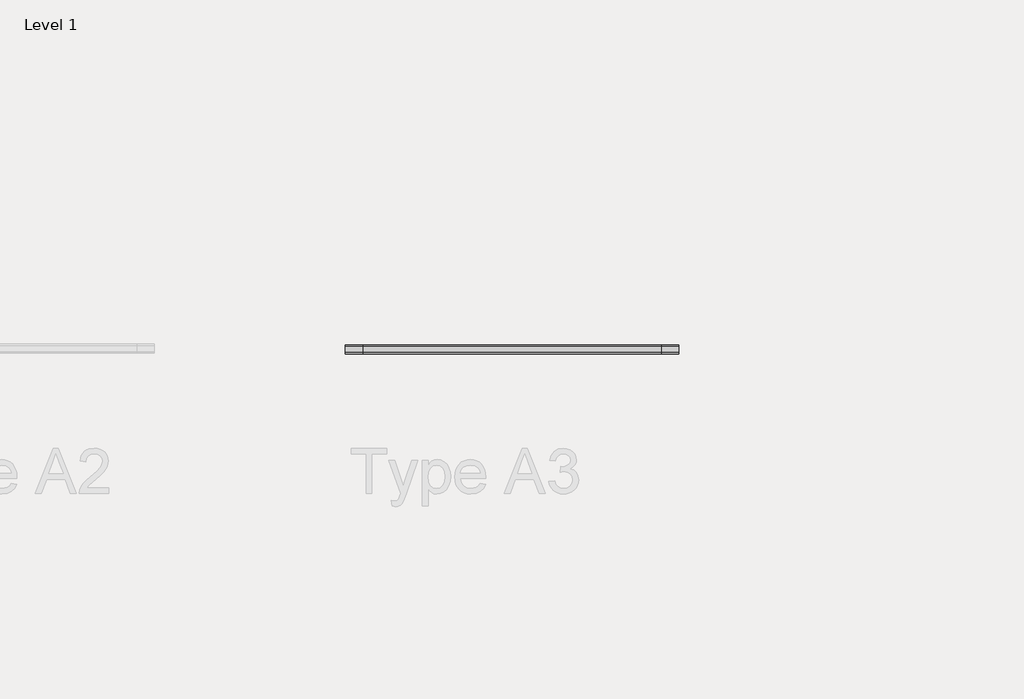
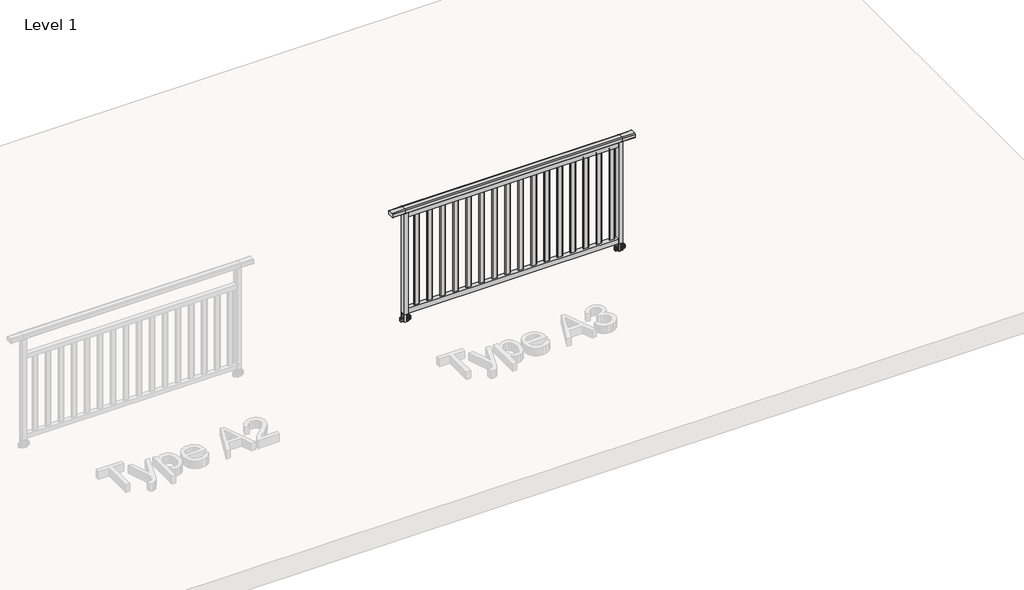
# One storey, part 2 of 9: 1 railing.
"""IFC4 building model written with IfcOpenShell, lengths in millimetres."""

from ifc_helpers import new_model, si_unit, point, frame, frame_2d, origin, origin_with_axes, place, context, project, spatial, polyline, circle_curve, trimmed, segment, composite_curve, outline, extrude, element, save
from ifc_brep_helpers import plane_surface, cylinder_surface, advanced_brep

model = new_model("IFC4")

# Units and contexts
model_context = context("Model", 3, world=origin())
ifc_project = project(units=[si_unit("LENGTHUNIT", "METRE", prefix="MILLI")], contexts=[model_context])

# Site, building, storey
site = spatial("IfcSite", under=ifc_project)
building = spatial("IfcBuilding", under=site)
storey = spatial("IfcBuildingStorey", under=building, Name="Level 1", Elevation=0.0)

# Railing
placement = place(None, origin())
element("IfcRailing", 1, ObjectType="OF 60 TYPE A3", at=placement, inside=storey, context=model_context, shape_type="SolidModel", body=[
    advanced_brep(
    [(3816.4562095, -924.6139415, 1100.0), (3816.4562095, -916.6139415, 1092.0), (3816.4562095, -916.6139415, 1064.0), (3816.4562095, -920.6139415, 1060.0), (3816.4562095, -972.6139415, 1060.0), (3816.4562095, -976.6139415, 1064.0), (3816.4562095, -976.6139415, 1092.0), (3816.4562095, -968.6139415, 1100.0), (3933.4542161, -924.6139415, 1100.0), (3933.4542161, -916.6139415, 1092.0), (3933.4542161, -916.6139415, 1064.0), (3933.4542161, -920.6139415, 1060.0), (3933.4542161, -972.6139415, 1060.0), (3933.4542161, -976.6139415, 1064.0), (3933.4542161, -976.6139415, 1092.0), (3933.4542161, -968.6139415, 1100.0), (5933.4542161, -924.6139415, 1100.0), (5933.4542161, -916.6139415, 1092.0), (5933.4542161, -916.6139415, 1064.0), (5933.4542161, -920.6139415, 1060.0), (5933.4542161, -972.6139415, 1060.0), (5933.4542161, -976.6139415, 1064.0), (5933.4542161, -976.6139415, 1092.0), (5933.4542161, -968.6139415, 1100.0), (6050.4522228, -924.6139415, 1100.0), (6050.4522228, -968.6139415, 1100.0), (6050.4522228, -976.6139415, 1092.0), (6050.4522228, -976.6139415, 1064.0), (6050.4522228, -972.6139415, 1060.0), (6050.4522228, -920.6139415, 1060.0), (6050.4522228, -916.6139415, 1064.0), (6050.4522228, -916.6139415, 1092.0)],
    [
        (0, 1, circle_curve(frame((3816.4562095, -924.6139415, 1092.0), z_axis=(-1.0, 0.0, 0.0), x_axis=(0.0, 1.0, 0.0)), 8.0)),
        (1, 2),
        (2, 3, circle_curve(frame((3816.4562095, -920.6139415, 1064.0), z_axis=(-1.0, 0.0, 0.0), x_axis=(0.0, 0.0, -1.0)), 4.0)),
        (3, 4),
        (4, 5, circle_curve(frame((3816.4562095, -972.6139415, 1064.0), z_axis=(-1.0, 0.0, 0.0), x_axis=(0.0, -1.0, 0.0)), 4.0)),
        (5, 6),
        (6, 7, circle_curve(frame((3816.4562095, -968.6139415, 1092.0), z_axis=(-1.0, 0.0, 0.0), x_axis=(0.0, 0.0, 1.0)), 8.0)),
        (7, 0),
        (0, 8),
        (8, 9, circle_curve(frame((3933.4542161, -924.6139415, 1092.0), z_axis=(-1.0, 0.0, 0.0), x_axis=(0.0, 1.0, 0.0)), 8.0)),
        (9, 1),
        (9, 10),
        (10, 2),
        (10, 11, circle_curve(frame((3933.4542161, -920.6139415, 1064.0), z_axis=(-1.0, 0.0, 0.0), x_axis=(0.0, 0.0, -1.0)), 4.0)),
        (11, 3),
        (11, 12),
        (12, 4),
        (12, 13, circle_curve(frame((3933.4542161, -972.6139415, 1064.0), z_axis=(-1.0, 0.0, 0.0), x_axis=(0.0, -1.0, 0.0)), 4.0)),
        (13, 5),
        (13, 14),
        (14, 6),
        (14, 15, circle_curve(frame((3933.4542161, -968.6139415, 1092.0), z_axis=(-1.0, 0.0, 0.0), x_axis=(0.0, 0.0, 1.0)), 8.0)),
        (15, 7),
        (15, 8),
        (8, 16),
        (16, 17, circle_curve(frame((5933.4542161, -924.6139415, 1092.0), z_axis=(-1.0, 0.0, 0.0), x_axis=(0.0, 1.0, 0.0)), 8.0)),
        (17, 9),
        (17, 18),
        (18, 10),
        (18, 19, circle_curve(frame((5933.4542161, -920.6139415, 1064.0), z_axis=(-1.0, 0.0, 0.0), x_axis=(0.0, 0.0, -1.0)), 4.0)),
        (19, 11),
        (19, 20),
        (20, 12),
        (20, 21, circle_curve(frame((5933.4542161, -972.6139415, 1064.0), z_axis=(-1.0, 0.0, 0.0), x_axis=(0.0, -1.0, 0.0)), 4.0)),
        (21, 13),
        (21, 22),
        (22, 14),
        (22, 23, circle_curve(frame((5933.4542161, -968.6139415, 1092.0), z_axis=(-1.0, 0.0, 0.0), x_axis=(0.0, 0.0, 1.0)), 8.0)),
        (23, 15),
        (23, 16),
        (24, 25),
        (25, 26, circle_curve(frame((6050.4522228, -968.6139415, 1092.0), z_axis=(1.0, 0.0, 0.0), x_axis=(0.0, 0.0, 1.0)), 8.0)),
        (26, 27),
        (27, 28, circle_curve(frame((6050.4522228, -972.6139415, 1064.0), z_axis=(1.0, 0.0, 0.0), x_axis=(0.0, -1.0, 0.0)), 4.0)),
        (28, 29),
        (29, 30, circle_curve(frame((6050.4522228, -920.6139415, 1064.0), z_axis=(1.0, 0.0, 0.0), x_axis=(0.0, 0.0, -1.0)), 4.0)),
        (30, 31),
        (31, 24, circle_curve(frame((6050.4522228, -924.6139415, 1092.0), z_axis=(1.0, 0.0, 0.0), x_axis=(0.0, 1.0, 0.0)), 8.0)),
        (16, 24),
        (31, 17),
        (30, 18),
        (29, 19),
        (28, 20),
        (27, 21),
        (26, 22),
        (25, 23),
    ],
    [
        plane_surface(frame((3816.4562095, -916.6139415, 1100.0), z_axis=(-1.0, 0.0, 0.0), x_axis=(0.0, 1.0, 0.0))),
        cylinder_surface(frame((3816.4562095, -924.6139415, 1092.0), z_axis=(-1.0, 0.0, 0.0), x_axis=(0.0, 1.0, 0.0)), 8.0),
        plane_surface(frame((3816.4562095, -916.6139415, 1092.0), z_axis=(0.0, 1.0, 0.0), x_axis=(1.0, 0.0, 0.0))),
        cylinder_surface(frame((3816.4562095, -920.6139415, 1064.0), z_axis=(-1.0, 0.0, 0.0), x_axis=(0.0, 0.0, -1.0)), 4.0),
        plane_surface(frame((3816.4562095, -920.6139415, 1060.0), z_axis=(0.0, 0.0, -1.0), x_axis=(1.0, 0.0, 0.0))),
        cylinder_surface(frame((3816.4562095, -972.6139415, 1064.0), z_axis=(-1.0, 0.0, 0.0), x_axis=(0.0, -1.0, 0.0)), 4.0),
        plane_surface(frame((3816.4562095, -976.6139415, 1064.0), z_axis=(0.0, -1.0, 0.0), x_axis=(1.0, 0.0, 0.0))),
        cylinder_surface(frame((3816.4562095, -968.6139415, 1092.0), z_axis=(-1.0, 0.0, 0.0), x_axis=(0.0, 0.0, 1.0)), 8.0),
        plane_surface(frame((3816.4562095, -968.6139415, 1100.0), z_axis=(0.0, 0.0, 1.0), x_axis=(1.0, 0.0, 0.0))),
        cylinder_surface(frame((3933.4542161, -924.6139415, 1092.0), z_axis=(-1.0, 0.0, 0.0), x_axis=(0.0, 1.0, 0.0)), 8.0),
        plane_surface(frame((3933.4542161, -916.6139415, 1092.0), z_axis=(0.0, 1.0, 0.0), x_axis=(1.0, 0.0, 0.0))),
        cylinder_surface(frame((3933.4542161, -920.6139415, 1064.0), z_axis=(-1.0, 0.0, 0.0), x_axis=(0.0, 0.0, -1.0)), 4.0),
        plane_surface(frame((3933.4542161, -920.6139415, 1060.0), z_axis=(0.0, 0.0, -1.0), x_axis=(1.0, 0.0, 0.0))),
        cylinder_surface(frame((3933.4542161, -972.6139415, 1064.0), z_axis=(-1.0, 0.0, 0.0), x_axis=(0.0, -1.0, 0.0)), 4.0),
        plane_surface(frame((3933.4542161, -976.6139415, 1064.0), z_axis=(0.0, -1.0, 0.0), x_axis=(1.0, 0.0, 0.0))),
        cylinder_surface(frame((3933.4542161, -968.6139415, 1092.0), z_axis=(-1.0, 0.0, 0.0), x_axis=(0.0, 0.0, 1.0)), 8.0),
        plane_surface(frame((3933.4542161, -968.6139415, 1100.0), z_axis=(0.0, 0.0, 1.0), x_axis=(1.0, 0.0, 0.0))),
        plane_surface(frame((6050.4522228, -916.6139415, 1100.0), z_axis=(1.0, 0.0, 0.0), x_axis=(0.0, 1.0, 0.0))),
        cylinder_surface(frame((5933.4542161, -924.6139415, 1092.0), z_axis=(-1.0, 0.0, 0.0), x_axis=(0.0, 1.0, 0.0)), 8.0),
        plane_surface(frame((5933.4542161, -916.6139415, 1092.0), z_axis=(0.0, 1.0, 0.0), x_axis=(1.0, 0.0, 0.0))),
        cylinder_surface(frame((5933.4542161, -920.6139415, 1064.0), z_axis=(-1.0, 0.0, 0.0), x_axis=(0.0, 0.0, -1.0)), 4.0),
        plane_surface(frame((5933.4542161, -920.6139415, 1060.0), z_axis=(0.0, 0.0, -1.0), x_axis=(1.0, 0.0, 0.0))),
        cylinder_surface(frame((5933.4542161, -972.6139415, 1064.0), z_axis=(-1.0, 0.0, 0.0), x_axis=(0.0, -1.0, 0.0)), 4.0),
        plane_surface(frame((5933.4542161, -976.6139415, 1064.0), z_axis=(0.0, -1.0, 0.0), x_axis=(1.0, 0.0, 0.0))),
        cylinder_surface(frame((5933.4542161, -968.6139415, 1092.0), z_axis=(-1.0, 0.0, 0.0), x_axis=(0.0, 0.0, 1.0)), 8.0),
        plane_surface(frame((5933.4542161, -968.6139415, 1100.0), z_axis=(0.0, 0.0, 1.0), x_axis=(1.0, 0.0, 0.0))),
    ],
    [
        (0, [[1, 2, 3, 4, 5, 6, 7, 8]]),
        (1, [[-1, 9, 10, 11]]),
        (2, [[-2, -11, 12, 13]]),
        (3, [[-3, -13, 14, 15]]),
        (4, [[-4, -15, 16, 17]]),
        (5, [[-5, -17, 18, 19]]),
        (6, [[-6, -19, 20, 21]]),
        (7, [[-7, -21, 22, 23]]),
        (8, [[-8, -23, 24, -9]]),
        (9, [[-10, 25, 26, 27]]),
        (10, [[-12, -27, 28, 29]]),
        (11, [[-14, -29, 30, 31]]),
        (12, [[-16, -31, 32, 33]]),
        (13, [[-18, -33, 34, 35]]),
        (14, [[-20, -35, 36, 37]]),
        (15, [[-22, -37, 38, 39]]),
        (16, [[-24, -39, 40, -25]]),
        (17, [[41, 42, 43, 44, 45, 46, 47, 48]]),
        (18, [[-26, 49, -48, 50]]),
        (19, [[-28, -50, -47, 51]]),
        (20, [[-30, -51, -46, 52]]),
        (21, [[-32, -52, -45, 53]]),
        (22, [[-34, -53, -44, 54]]),
        (23, [[-36, -54, -43, 55]]),
        (24, [[-38, -55, -42, 56]]),
        (25, [[-40, -56, -41, -49]]),
    ],
),
    extrude(outline(polyline([(3933.4542161, -969.1139415), (3933.4542161, -924.1139415), (5933.4542161, -924.1139415), (5933.4542161, -969.1139415), (3933.4542161, -969.1139415)])), frame((0.0, 0.0, 1015.0), z_axis=(0.0, 0.0, 1.0), x_axis=(1.0, 0.0, 0.0)), (0.0, 0.0, 1.0), 45.0),
    extrude(outline(polyline([(3933.4542161, -969.1139415), (3933.4542161, -924.1139415), (5933.4542161, -924.1139415), (5933.4542161, -969.1139415), (3933.4542161, -969.1139415)])), frame((0.0, 0.0, 75.0), z_axis=(0.0, 0.0, 1.0), x_axis=(1.0, 0.0, 0.0)), (0.0, 0.0, 1.0), 45.0),
    extrude(outline(composite_curve([segment(trimmed(circle_curve(frame_2d((5833.4542161, -946.6139415)), 5.0), [point((5828.4542161, -946.6139415))], [point((5833.4542161, -941.6139415))], False, "CARTESIAN"), True, "CONTINUOUS"), segment(polyline([(5833.4542161, -941.6139415), (5873.4542161, -941.6139415)]), True, "CONTINUOUS"), segment(trimmed(circle_curve(frame_2d((5873.4542161, -946.6139415)), 5.0), [point((5873.4542161, -941.6139415))], [point((5878.4542161, -946.6139415))], False, "CARTESIAN"), True, "CONTINUOUS"), segment(trimmed(circle_curve(frame_2d((5873.4542161, -946.6139415)), 5.0), [point((5878.4542161, -946.6139415))], [point((5873.4542161, -951.6139415))], False, "CARTESIAN"), True, "CONTINUOUS"), segment(polyline([(5873.4542161, -951.6139415), (5833.4542161, -951.6139415)]), True, "CONTINUOUS"), segment(trimmed(circle_curve(frame_2d((5833.4542161, -946.6139415)), 5.0), [point((5833.4542161, -951.6139415))], [point((5828.4542161, -946.6139415))], False, "CARTESIAN"), True, "CONTINUOUS")], self_intersect=False)), frame((0.0, 0.0, 120.0), z_axis=(0.0, 0.0, 1.0), x_axis=(1.0, 0.0, 0.0)), (0.0, 0.0, 1.0), 895.0),
    extrude(outline(composite_curve([segment(trimmed(circle_curve(frame_2d((5713.4542161, -946.6139415)), 5.0), [point((5708.4542161, -946.6139415))], [point((5713.4542161, -941.6139415))], False, "CARTESIAN"), True, "CONTINUOUS"), segment(polyline([(5713.4542161, -941.6139415), (5753.4542161, -941.6139415)]), True, "CONTINUOUS"), segment(trimmed(circle_curve(frame_2d((5753.4542161, -946.6139415)), 5.0), [point((5753.4542161, -941.6139415))], [point((5758.4542161, -946.6139415))], False, "CARTESIAN"), True, "CONTINUOUS"), segment(trimmed(circle_curve(frame_2d((5753.4542161, -946.6139415)), 5.0), [point((5758.4542161, -946.6139415))], [point((5753.4542161, -951.6139415))], False, "CARTESIAN"), True, "CONTINUOUS"), segment(polyline([(5753.4542161, -951.6139415), (5713.4542161, -951.6139415)]), True, "CONTINUOUS"), segment(trimmed(circle_curve(frame_2d((5713.4542161, -946.6139415)), 5.0), [point((5713.4542161, -951.6139415))], [point((5708.4542161, -946.6139415))], False, "CARTESIAN"), True, "CONTINUOUS")], self_intersect=False)), frame((0.0, 0.0, 120.0), z_axis=(0.0, 0.0, 1.0), x_axis=(1.0, 0.0, 0.0)), (0.0, 0.0, 1.0), 895.0),
    extrude(outline(composite_curve([segment(trimmed(circle_curve(frame_2d((5593.4542161, -946.6139415)), 5.0), [point((5588.4542161, -946.6139415))], [point((5593.4542161, -941.6139415))], False, "CARTESIAN"), True, "CONTINUOUS"), segment(polyline([(5593.4542161, -941.6139415), (5633.4542161, -941.6139415)]), True, "CONTINUOUS"), segment(trimmed(circle_curve(frame_2d((5633.4542161, -946.6139415)), 5.0), [point((5633.4542161, -941.6139415))], [point((5638.4542161, -946.6139415))], False, "CARTESIAN"), True, "CONTINUOUS"), segment(trimmed(circle_curve(frame_2d((5633.4542161, -946.6139415)), 5.0), [point((5638.4542161, -946.6139415))], [point((5633.4542161, -951.6139415))], False, "CARTESIAN"), True, "CONTINUOUS"), segment(polyline([(5633.4542161, -951.6139415), (5593.4542161, -951.6139415)]), True, "CONTINUOUS"), segment(trimmed(circle_curve(frame_2d((5593.4542161, -946.6139415)), 5.0), [point((5593.4542161, -951.6139415))], [point((5588.4542161, -946.6139415))], False, "CARTESIAN"), True, "CONTINUOUS")], self_intersect=False)), frame((0.0, 0.0, 120.0), z_axis=(0.0, 0.0, 1.0), x_axis=(1.0, 0.0, 0.0)), (0.0, 0.0, 1.0), 895.0),
    extrude(outline(composite_curve([segment(trimmed(circle_curve(frame_2d((5473.4542161, -946.6139415)), 5.0), [point((5468.4542161, -946.6139415))], [point((5473.4542161, -941.6139415))], False, "CARTESIAN"), True, "CONTINUOUS"), segment(polyline([(5473.4542161, -941.6139415), (5513.4542161, -941.6139415)]), True, "CONTINUOUS"), segment(trimmed(circle_curve(frame_2d((5513.4542161, -946.6139415)), 5.0), [point((5513.4542161, -941.6139415))], [point((5518.4542161, -946.6139415))], False, "CARTESIAN"), True, "CONTINUOUS"), segment(trimmed(circle_curve(frame_2d((5513.4542161, -946.6139415)), 5.0), [point((5518.4542161, -946.6139415))], [point((5513.4542161, -951.6139415))], False, "CARTESIAN"), True, "CONTINUOUS"), segment(polyline([(5513.4542161, -951.6139415), (5473.4542161, -951.6139415)]), True, "CONTINUOUS"), segment(trimmed(circle_curve(frame_2d((5473.4542161, -946.6139415)), 5.0), [point((5473.4542161, -951.6139415))], [point((5468.4542161, -946.6139415))], False, "CARTESIAN"), True, "CONTINUOUS")], self_intersect=False)), frame((0.0, 0.0, 120.0), z_axis=(0.0, 0.0, 1.0), x_axis=(1.0, 0.0, 0.0)), (0.0, 0.0, 1.0), 895.0),
    extrude(outline(composite_curve([segment(trimmed(circle_curve(frame_2d((5353.4542161, -946.6139415)), 5.0), [point((5348.4542161, -946.6139415))], [point((5353.4542161, -941.6139415))], False, "CARTESIAN"), True, "CONTINUOUS"), segment(polyline([(5353.4542161, -941.6139415), (5393.4542161, -941.6139415)]), True, "CONTINUOUS"), segment(trimmed(circle_curve(frame_2d((5393.4542161, -946.6139415)), 5.0), [point((5393.4542161, -941.6139415))], [point((5398.4542161, -946.6139415))], False, "CARTESIAN"), True, "CONTINUOUS"), segment(trimmed(circle_curve(frame_2d((5393.4542161, -946.6139415)), 5.0), [point((5398.4542161, -946.6139415))], [point((5393.4542161, -951.6139415))], False, "CARTESIAN"), True, "CONTINUOUS"), segment(polyline([(5393.4542161, -951.6139415), (5353.4542161, -951.6139415)]), True, "CONTINUOUS"), segment(trimmed(circle_curve(frame_2d((5353.4542161, -946.6139415)), 5.0), [point((5353.4542161, -951.6139415))], [point((5348.4542161, -946.6139415))], False, "CARTESIAN"), True, "CONTINUOUS")], self_intersect=False)), frame((0.0, 0.0, 120.0), z_axis=(0.0, 0.0, 1.0), x_axis=(1.0, 0.0, 0.0)), (0.0, 0.0, 1.0), 895.0),
    extrude(outline(composite_curve([segment(trimmed(circle_curve(frame_2d((5233.4542161, -946.6139415)), 5.0), [point((5228.4542161, -946.6139415))], [point((5233.4542161, -941.6139415))], False, "CARTESIAN"), True, "CONTINUOUS"), segment(polyline([(5233.4542161, -941.6139415), (5273.4542161, -941.6139415)]), True, "CONTINUOUS"), segment(trimmed(circle_curve(frame_2d((5273.4542161, -946.6139415)), 5.0), [point((5273.4542161, -941.6139415))], [point((5278.4542161, -946.6139415))], False, "CARTESIAN"), True, "CONTINUOUS"), segment(trimmed(circle_curve(frame_2d((5273.4542161, -946.6139415)), 5.0), [point((5278.4542161, -946.6139415))], [point((5273.4542161, -951.6139415))], False, "CARTESIAN"), True, "CONTINUOUS"), segment(polyline([(5273.4542161, -951.6139415), (5233.4542161, -951.6139415)]), True, "CONTINUOUS"), segment(trimmed(circle_curve(frame_2d((5233.4542161, -946.6139415)), 5.0), [point((5233.4542161, -951.6139415))], [point((5228.4542161, -946.6139415))], False, "CARTESIAN"), True, "CONTINUOUS")], self_intersect=False)), frame((0.0, 0.0, 120.0), z_axis=(0.0, 0.0, 1.0), x_axis=(1.0, 0.0, 0.0)), (0.0, 0.0, 1.0), 895.0),
    extrude(outline(composite_curve([segment(trimmed(circle_curve(frame_2d((5113.4542161, -946.6139415)), 5.0), [point((5108.4542161, -946.6139415))], [point((5113.4542161, -941.6139415))], False, "CARTESIAN"), True, "CONTINUOUS"), segment(polyline([(5113.4542161, -941.6139415), (5153.4542161, -941.6139415)]), True, "CONTINUOUS"), segment(trimmed(circle_curve(frame_2d((5153.4542161, -946.6139415)), 5.0), [point((5153.4542161, -941.6139415))], [point((5158.4542161, -946.6139415))], False, "CARTESIAN"), True, "CONTINUOUS"), segment(trimmed(circle_curve(frame_2d((5153.4542161, -946.6139415)), 5.0), [point((5158.4542161, -946.6139415))], [point((5153.4542161, -951.6139415))], False, "CARTESIAN"), True, "CONTINUOUS"), segment(polyline([(5153.4542161, -951.6139415), (5113.4542161, -951.6139415)]), True, "CONTINUOUS"), segment(trimmed(circle_curve(frame_2d((5113.4542161, -946.6139415)), 5.0), [point((5113.4542161, -951.6139415))], [point((5108.4542161, -946.6139415))], False, "CARTESIAN"), True, "CONTINUOUS")], self_intersect=False)), frame((0.0, 0.0, 120.0), z_axis=(0.0, 0.0, 1.0), x_axis=(1.0, 0.0, 0.0)), (0.0, 0.0, 1.0), 895.0),
    extrude(outline(composite_curve([segment(trimmed(circle_curve(frame_2d((4993.4542161, -946.6139415)), 5.0), [point((4988.4542161, -946.6139415))], [point((4993.4542161, -941.6139415))], False, "CARTESIAN"), True, "CONTINUOUS"), segment(polyline([(4993.4542161, -941.6139415), (5033.4542161, -941.6139415)]), True, "CONTINUOUS"), segment(trimmed(circle_curve(frame_2d((5033.4542161, -946.6139415)), 5.0), [point((5033.4542161, -941.6139415))], [point((5038.4542161, -946.6139415))], False, "CARTESIAN"), True, "CONTINUOUS"), segment(trimmed(circle_curve(frame_2d((5033.4542161, -946.6139415)), 5.0), [point((5038.4542161, -946.6139415))], [point((5033.4542161, -951.6139415))], False, "CARTESIAN"), True, "CONTINUOUS"), segment(polyline([(5033.4542161, -951.6139415), (4993.4542161, -951.6139415)]), True, "CONTINUOUS"), segment(trimmed(circle_curve(frame_2d((4993.4542161, -946.6139415)), 5.0), [point((4993.4542161, -951.6139415))], [point((4988.4542161, -946.6139415))], False, "CARTESIAN"), True, "CONTINUOUS")], self_intersect=False)), frame((0.0, 0.0, 120.0), z_axis=(0.0, 0.0, 1.0), x_axis=(1.0, 0.0, 0.0)), (0.0, 0.0, 1.0), 895.0),
    extrude(outline(composite_curve([segment(trimmed(circle_curve(frame_2d((4873.4542161, -946.6139415)), 5.0), [point((4868.4542161, -946.6139415))], [point((4873.4542161, -941.6139415))], False, "CARTESIAN"), True, "CONTINUOUS"), segment(polyline([(4873.4542161, -941.6139415), (4913.4542161, -941.6139415)]), True, "CONTINUOUS"), segment(trimmed(circle_curve(frame_2d((4913.4542161, -946.6139415)), 5.0), [point((4913.4542161, -941.6139415))], [point((4918.4542161, -946.6139415))], False, "CARTESIAN"), True, "CONTINUOUS"), segment(trimmed(circle_curve(frame_2d((4913.4542161, -946.6139415)), 5.0), [point((4918.4542161, -946.6139415))], [point((4913.4542161, -951.6139415))], False, "CARTESIAN"), True, "CONTINUOUS"), segment(polyline([(4913.4542161, -951.6139415), (4873.4542161, -951.6139415)]), True, "CONTINUOUS"), segment(trimmed(circle_curve(frame_2d((4873.4542161, -946.6139415)), 5.0), [point((4873.4542161, -951.6139415))], [point((4868.4542161, -946.6139415))], False, "CARTESIAN"), True, "CONTINUOUS")], self_intersect=False)), frame((0.0, 0.0, 120.0), z_axis=(0.0, 0.0, 1.0), x_axis=(1.0, 0.0, 0.0)), (0.0, 0.0, 1.0), 895.0),
    extrude(outline(composite_curve([segment(trimmed(circle_curve(frame_2d((4753.4542161, -946.6139415)), 5.0), [point((4748.4542161, -946.6139415))], [point((4753.4542161, -941.6139415))], False, "CARTESIAN"), True, "CONTINUOUS"), segment(polyline([(4753.4542161, -941.6139415), (4793.4542161, -941.6139415)]), True, "CONTINUOUS"), segment(trimmed(circle_curve(frame_2d((4793.4542161, -946.6139415)), 5.0), [point((4793.4542161, -941.6139415))], [point((4798.4542161, -946.6139415))], False, "CARTESIAN"), True, "CONTINUOUS"), segment(trimmed(circle_curve(frame_2d((4793.4542161, -946.6139415)), 5.0), [point((4798.4542161, -946.6139415))], [point((4793.4542161, -951.6139415))], False, "CARTESIAN"), True, "CONTINUOUS"), segment(polyline([(4793.4542161, -951.6139415), (4753.4542161, -951.6139415)]), True, "CONTINUOUS"), segment(trimmed(circle_curve(frame_2d((4753.4542161, -946.6139415)), 5.0), [point((4753.4542161, -951.6139415))], [point((4748.4542161, -946.6139415))], False, "CARTESIAN"), True, "CONTINUOUS")], self_intersect=False)), frame((0.0, 0.0, 120.0), z_axis=(0.0, 0.0, 1.0), x_axis=(1.0, 0.0, 0.0)), (0.0, 0.0, 1.0), 895.0),
    extrude(outline(composite_curve([segment(trimmed(circle_curve(frame_2d((4633.4542161, -946.6139415)), 5.0), [point((4628.4542161, -946.6139415))], [point((4633.4542161, -941.6139415))], False, "CARTESIAN"), True, "CONTINUOUS"), segment(polyline([(4633.4542161, -941.6139415), (4673.4542161, -941.6139415)]), True, "CONTINUOUS"), segment(trimmed(circle_curve(frame_2d((4673.4542161, -946.6139415)), 5.0), [point((4673.4542161, -941.6139415))], [point((4678.4542161, -946.6139415))], False, "CARTESIAN"), True, "CONTINUOUS"), segment(trimmed(circle_curve(frame_2d((4673.4542161, -946.6139415)), 5.0), [point((4678.4542161, -946.6139415))], [point((4673.4542161, -951.6139415))], False, "CARTESIAN"), True, "CONTINUOUS"), segment(polyline([(4673.4542161, -951.6139415), (4633.4542161, -951.6139415)]), True, "CONTINUOUS"), segment(trimmed(circle_curve(frame_2d((4633.4542161, -946.6139415)), 5.0), [point((4633.4542161, -951.6139415))], [point((4628.4542161, -946.6139415))], False, "CARTESIAN"), True, "CONTINUOUS")], self_intersect=False)), frame((0.0, 0.0, 120.0), z_axis=(0.0, 0.0, 1.0), x_axis=(1.0, 0.0, 0.0)), (0.0, 0.0, 1.0), 895.0),
    extrude(outline(composite_curve([segment(trimmed(circle_curve(frame_2d((4513.4542161, -946.6139415)), 5.0), [point((4508.4542161, -946.6139415))], [point((4513.4542161, -941.6139415))], False, "CARTESIAN"), True, "CONTINUOUS"), segment(polyline([(4513.4542161, -941.6139415), (4553.4542161, -941.6139415)]), True, "CONTINUOUS"), segment(trimmed(circle_curve(frame_2d((4553.4542161, -946.6139415)), 5.0), [point((4553.4542161, -941.6139415))], [point((4558.4542161, -946.6139415))], False, "CARTESIAN"), True, "CONTINUOUS"), segment(trimmed(circle_curve(frame_2d((4553.4542161, -946.6139415)), 5.0), [point((4558.4542161, -946.6139415))], [point((4553.4542161, -951.6139415))], False, "CARTESIAN"), True, "CONTINUOUS"), segment(polyline([(4553.4542161, -951.6139415), (4513.4542161, -951.6139415)]), True, "CONTINUOUS"), segment(trimmed(circle_curve(frame_2d((4513.4542161, -946.6139415)), 5.0), [point((4513.4542161, -951.6139415))], [point((4508.4542161, -946.6139415))], False, "CARTESIAN"), True, "CONTINUOUS")], self_intersect=False)), frame((0.0, 0.0, 120.0), z_axis=(0.0, 0.0, 1.0), x_axis=(1.0, 0.0, 0.0)), (0.0, 0.0, 1.0), 895.0),
    extrude(outline(composite_curve([segment(trimmed(circle_curve(frame_2d((4393.4542161, -946.6139415)), 5.0), [point((4388.4542161, -946.6139415))], [point((4393.4542161, -941.6139415))], False, "CARTESIAN"), True, "CONTINUOUS"), segment(polyline([(4393.4542161, -941.6139415), (4433.4542161, -941.6139415)]), True, "CONTINUOUS"), segment(trimmed(circle_curve(frame_2d((4433.4542161, -946.6139415)), 5.0), [point((4433.4542161, -941.6139415))], [point((4438.4542161, -946.6139415))], False, "CARTESIAN"), True, "CONTINUOUS"), segment(trimmed(circle_curve(frame_2d((4433.4542161, -946.6139415)), 5.0), [point((4438.4542161, -946.6139415))], [point((4433.4542161, -951.6139415))], False, "CARTESIAN"), True, "CONTINUOUS"), segment(polyline([(4433.4542161, -951.6139415), (4393.4542161, -951.6139415)]), True, "CONTINUOUS"), segment(trimmed(circle_curve(frame_2d((4393.4542161, -946.6139415)), 5.0), [point((4393.4542161, -951.6139415))], [point((4388.4542161, -946.6139415))], False, "CARTESIAN"), True, "CONTINUOUS")], self_intersect=False)), frame((0.0, 0.0, 120.0), z_axis=(0.0, 0.0, 1.0), x_axis=(1.0, 0.0, 0.0)), (0.0, 0.0, 1.0), 895.0),
    extrude(outline(composite_curve([segment(trimmed(circle_curve(frame_2d((4273.4542161, -946.6139415)), 5.0), [point((4268.4542161, -946.6139415))], [point((4273.4542161, -941.6139415))], False, "CARTESIAN"), True, "CONTINUOUS"), segment(polyline([(4273.4542161, -941.6139415), (4313.4542161, -941.6139415)]), True, "CONTINUOUS"), segment(trimmed(circle_curve(frame_2d((4313.4542161, -946.6139415)), 5.0), [point((4313.4542161, -941.6139415))], [point((4318.4542161, -946.6139415))], False, "CARTESIAN"), True, "CONTINUOUS"), segment(trimmed(circle_curve(frame_2d((4313.4542161, -946.6139415)), 5.0), [point((4318.4542161, -946.6139415))], [point((4313.4542161, -951.6139415))], False, "CARTESIAN"), True, "CONTINUOUS"), segment(polyline([(4313.4542161, -951.6139415), (4273.4542161, -951.6139415)]), True, "CONTINUOUS"), segment(trimmed(circle_curve(frame_2d((4273.4542161, -946.6139415)), 5.0), [point((4273.4542161, -951.6139415))], [point((4268.4542161, -946.6139415))], False, "CARTESIAN"), True, "CONTINUOUS")], self_intersect=False)), frame((0.0, 0.0, 120.0), z_axis=(0.0, 0.0, 1.0), x_axis=(1.0, 0.0, 0.0)), (0.0, 0.0, 1.0), 895.0),
    extrude(outline(composite_curve([segment(trimmed(circle_curve(frame_2d((4153.4542161, -946.6139415)), 5.0), [point((4148.4542161, -946.6139415))], [point((4153.4542161, -941.6139415))], False, "CARTESIAN"), True, "CONTINUOUS"), segment(polyline([(4153.4542161, -941.6139415), (4193.4542161, -941.6139415)]), True, "CONTINUOUS"), segment(trimmed(circle_curve(frame_2d((4193.4542161, -946.6139415)), 5.0), [point((4193.4542161, -941.6139415))], [point((4198.4542161, -946.6139415))], False, "CARTESIAN"), True, "CONTINUOUS"), segment(trimmed(circle_curve(frame_2d((4193.4542161, -946.6139415)), 5.0), [point((4198.4542161, -946.6139415))], [point((4193.4542161, -951.6139415))], False, "CARTESIAN"), True, "CONTINUOUS"), segment(polyline([(4193.4542161, -951.6139415), (4153.4542161, -951.6139415)]), True, "CONTINUOUS"), segment(trimmed(circle_curve(frame_2d((4153.4542161, -946.6139415)), 5.0), [point((4153.4542161, -951.6139415))], [point((4148.4542161, -946.6139415))], False, "CARTESIAN"), True, "CONTINUOUS")], self_intersect=False)), frame((0.0, 0.0, 120.0), z_axis=(0.0, 0.0, 1.0), x_axis=(1.0, 0.0, 0.0)), (0.0, 0.0, 1.0), 895.0),
    extrude(outline(composite_curve([segment(trimmed(circle_curve(frame_2d((4033.4542161, -946.6139415)), 5.0), [point((4028.4542161, -946.6139415))], [point((4033.4542161, -941.6139415))], False, "CARTESIAN"), True, "CONTINUOUS"), segment(polyline([(4033.4542161, -941.6139415), (4073.4542161, -941.6139415)]), True, "CONTINUOUS"), segment(trimmed(circle_curve(frame_2d((4073.4542161, -946.6139415)), 5.0), [point((4073.4542161, -941.6139415))], [point((4078.4542161, -946.6139415))], False, "CARTESIAN"), True, "CONTINUOUS"), segment(trimmed(circle_curve(frame_2d((4073.4542161, -946.6139415)), 5.0), [point((4078.4542161, -946.6139415))], [point((4073.4542161, -951.6139415))], False, "CARTESIAN"), True, "CONTINUOUS"), segment(polyline([(4073.4542161, -951.6139415), (4033.4542161, -951.6139415)]), True, "CONTINUOUS"), segment(trimmed(circle_curve(frame_2d((4033.4542161, -946.6139415)), 5.0), [point((4033.4542161, -951.6139415))], [point((4028.4542161, -946.6139415))], False, "CARTESIAN"), True, "CONTINUOUS")], self_intersect=False)), frame((0.0, 0.0, 120.0), z_axis=(0.0, 0.0, 1.0), x_axis=(1.0, 0.0, 0.0)), (0.0, 0.0, 1.0), 895.0),
    extrude(outline(composite_curve([segment(polyline([(5939.984716, -972.6023402), (5925.9542161, -974.3639415), (5915.9542161, -974.3639415), (5901.9237163, -972.6023402)]), True, "CONTINUOUS"), segment(trimmed(circle_curve(frame_2d((5902.0732087, -971.4116883)), 1.2), [point((5901.9237163, -972.6023402))], [point((5900.876965, -971.5065611))], False, "CARTESIAN"), True, "CONTINUOUS"), segment(polyline([(5900.876965, -971.5065611), (5899.8822228, -958.9639415)]), True, "CONTINUOUS"), segment(trimmed(circle_curve(frame_2d((6135.1741105, -946.6139415)), 235.6157782), [point((5899.8822228, -958.9639415))], [point((5899.8822228, -934.2639414))], False, "CARTESIAN"), True, "CONTINUOUS"), segment(polyline([(5899.8822228, -934.2639414), (5900.876965, -921.7213218)]), True, "CONTINUOUS"), segment(trimmed(circle_curve(frame_2d((5902.0732087, -921.8161946)), 1.2), [point((5900.876965, -921.7213218))], [point((5901.9237163, -920.6255427))], False, "CARTESIAN"), True, "CONTINUOUS"), segment(polyline([(5901.9237163, -920.6255427), (5915.9542161, -918.8639414), (5925.9542161, -918.8639414), (5939.984716, -920.6255427)]), True, "CONTINUOUS"), segment(trimmed(circle_curve(frame_2d((5939.8352235, -921.8161946)), 1.2), [point((5939.984716, -920.6255427))], [point((5941.0314673, -921.7213218))], False, "CARTESIAN"), True, "CONTINUOUS"), segment(polyline([(5941.0314673, -921.7213218), (5942.0262095, -934.2639414)]), True, "CONTINUOUS"), segment(trimmed(circle_curve(frame_2d((5706.7343218, -946.6139415)), 235.6157782), [point((5942.0262095, -934.2639414))], [point((5942.0262095, -958.9639415))], False, "CARTESIAN"), True, "CONTINUOUS"), segment(polyline([(5942.0262095, -958.9639415), (5941.0314673, -971.5065611)]), True, "CONTINUOUS"), segment(trimmed(circle_curve(frame_2d((5939.8352235, -971.4116883)), 1.2), [point((5941.0314673, -971.5065611))], [point((5939.984716, -972.6023402))], False, "CARTESIAN"), True, "CONTINUOUS")], self_intersect=False), holes=[polyline([(5931.4542161, -926.1139414), (5910.4542161, -926.1139414), (5910.4542161, -967.1139415), (5931.4542161, -967.1139415), (5931.4542161, -926.1139414)])]), origin_with_axes(), (0.0, 0.0, 1.0), 71.6433898),
    extrude(outline(composite_curve([segment(trimmed(circle_curve(frame_2d((5963.9984157, -952.4639415)), 6.5), [point((5970.4984157, -952.4639415))], [point((5963.9984157, -958.9639415))], False, "CARTESIAN"), True, "CONTINUOUS"), segment(polyline([(5963.9984157, -958.9639415), (5885.9944291, -958.9639415)]), True, "CONTINUOUS"), segment(trimmed(circle_curve(frame_2d((5885.9944291, -952.4639415)), 6.5), [point((5885.9944291, -958.9639415))], [point((5879.4944291, -952.4639415))], False, "CARTESIAN"), True, "CONTINUOUS"), segment(polyline([(5879.4944291, -952.4639415), (5879.4944291, -940.7639415)]), True, "CONTINUOUS"), segment(trimmed(circle_curve(frame_2d((5885.9944291, -940.7639415)), 6.5), [point((5879.4944291, -940.7639415))], [point((5885.9944291, -934.2639415))], False, "CARTESIAN"), True, "CONTINUOUS"), segment(polyline([(5885.9944291, -934.2639415), (5963.9984157, -934.2639415)]), True, "CONTINUOUS"), segment(trimmed(circle_curve(frame_2d((5963.9984157, -940.7639415)), 6.5), [point((5963.9984157, -934.2639415))], [point((5970.4984157, -940.7639415))], False, "CARTESIAN"), True, "CONTINUOUS"), segment(polyline([(5970.4984157, -940.7639415), (5970.4984157, -952.4639415)]), True, "CONTINUOUS")], self_intersect=False), holes=[composite_curve([segment(trimmed(circle_curve(frame_2d((5959.5684157, -948.4639415)), 5.0), [point((5956.6543216, -952.5269521))], [point((5964.5684157, -948.4639415))], True, "CARTESIAN"), True, "CONTINUOUS"), segment(polyline([(5964.5684157, -948.4639415), (5964.5684157, -944.7639415)]), True, "CONTINUOUS"), segment(trimmed(circle_curve(frame_2d((5959.5684157, -944.7639415)), 5.0), [point((5964.5684157, -944.7639415))], [point((5956.6543216, -940.7009308))], True, "CARTESIAN"), True, "CONTINUOUS"), segment(polyline([(5956.6543216, -940.7009308), (5954.2463342, -942.1858564)]), True, "CONTINUOUS"), segment(trimmed(circle_curve(frame_2d((5956.5684157, -946.6139415)), 5.0), [point((5954.2463342, -942.1858564))], [point((5954.2463342, -951.0420265))], True, "CARTESIAN"), True, "CONTINUOUS"), segment(polyline([(5954.2463342, -951.0420265), (5956.6543216, -952.5269521)]), True, "CONTINUOUS")], self_intersect=False), composite_curve([segment(trimmed(circle_curve(frame_2d((5890.4244291, -948.4639415)), 5.0), [point((5885.4244291, -948.4639415))], [point((5893.3385232, -952.5269521))], True, "CARTESIAN"), True, "CONTINUOUS"), segment(polyline([(5893.3385232, -952.5269521), (5895.7465106, -951.0420265)]), True, "CONTINUOUS"), segment(trimmed(circle_curve(frame_2d((5893.4244291, -946.6139415)), 5.0), [point((5895.7465106, -951.0420265))], [point((5895.7465106, -942.1858564))], True, "CARTESIAN"), True, "CONTINUOUS"), segment(polyline([(5895.7465106, -942.1858564), (5893.3385232, -940.7009308)]), True, "CONTINUOUS"), segment(trimmed(circle_curve(frame_2d((5890.4244291, -944.7639415)), 5.0), [point((5893.3385232, -940.7009308))], [point((5885.4244291, -944.7639415))], True, "CARTESIAN"), True, "CONTINUOUS"), segment(polyline([(5885.4244291, -944.7639415), (5885.4244291, -948.4639415)]), True, "CONTINUOUS")], self_intersect=False)]), origin_with_axes(), (0.0, 0.0, 1.0), 32.0),
    extrude(outline(polyline([(5901.9542161, -921.6139415), (5939.9542161, -921.6139415), (5939.9542161, -971.6139415), (5901.9542161, -971.6139415), (5901.9542161, -921.6139415)])), origin_with_axes(), (0.0, 0.0, 1.0), 1060.0),
    extrude(outline(composite_curve([segment(polyline([(3964.984716, -972.6023402), (3950.9542161, -974.3639415), (3940.9542161, -974.3639415), (3926.9237163, -972.6023402)]), True, "CONTINUOUS"), segment(trimmed(circle_curve(frame_2d((3927.0732087, -971.4116883)), 1.2), [point((3926.9237163, -972.6023402))], [point((3925.876965, -971.5065611))], False, "CARTESIAN"), True, "CONTINUOUS"), segment(polyline([(3925.876965, -971.5065611), (3924.8822228, -958.9639415)]), True, "CONTINUOUS"), segment(trimmed(circle_curve(frame_2d((4160.1741105, -946.6139415)), 235.6157782), [point((3924.8822228, -958.9639415))], [point((3924.8822228, -934.2639414))], False, "CARTESIAN"), True, "CONTINUOUS"), segment(polyline([(3924.8822228, -934.2639414), (3925.876965, -921.7213218)]), True, "CONTINUOUS"), segment(trimmed(circle_curve(frame_2d((3927.0732087, -921.8161946)), 1.2), [point((3925.876965, -921.7213218))], [point((3926.9237163, -920.6255427))], False, "CARTESIAN"), True, "CONTINUOUS"), segment(polyline([(3926.9237163, -920.6255427), (3940.9542161, -918.8639414), (3950.9542161, -918.8639414), (3964.984716, -920.6255427)]), True, "CONTINUOUS"), segment(trimmed(circle_curve(frame_2d((3964.8352235, -921.8161946)), 1.2), [point((3964.984716, -920.6255427))], [point((3966.0314673, -921.7213218))], False, "CARTESIAN"), True, "CONTINUOUS"), segment(polyline([(3966.0314673, -921.7213218), (3967.0262095, -934.2639414)]), True, "CONTINUOUS"), segment(trimmed(circle_curve(frame_2d((3731.7343218, -946.6139415)), 235.6157782), [point((3967.0262095, -934.2639414))], [point((3967.0262095, -958.9639415))], False, "CARTESIAN"), True, "CONTINUOUS"), segment(polyline([(3967.0262095, -958.9639415), (3966.0314673, -971.5065611)]), True, "CONTINUOUS"), segment(trimmed(circle_curve(frame_2d((3964.8352235, -971.4116883)), 1.2), [point((3966.0314673, -971.5065611))], [point((3964.984716, -972.6023402))], False, "CARTESIAN"), True, "CONTINUOUS")], self_intersect=False), holes=[polyline([(3956.4542161, -926.1139414), (3935.4542161, -926.1139414), (3935.4542161, -967.1139415), (3956.4542161, -967.1139415), (3956.4542161, -926.1139414)])]), origin_with_axes(), (0.0, 0.0, 1.0), 71.6433898),
    extrude(outline(composite_curve([segment(trimmed(circle_curve(frame_2d((3988.9984157, -952.4639415)), 6.5), [point((3995.4984157, -952.4639415))], [point((3988.9984157, -958.9639415))], False, "CARTESIAN"), True, "CONTINUOUS"), segment(polyline([(3988.9984157, -958.9639415), (3910.9944291, -958.9639415)]), True, "CONTINUOUS"), segment(trimmed(circle_curve(frame_2d((3910.9944291, -952.4639415)), 6.5), [point((3910.9944291, -958.9639415))], [point((3904.4944291, -952.4639415))], False, "CARTESIAN"), True, "CONTINUOUS"), segment(polyline([(3904.4944291, -952.4639415), (3904.4944291, -940.7639415)]), True, "CONTINUOUS"), segment(trimmed(circle_curve(frame_2d((3910.9944291, -940.7639415)), 6.5), [point((3904.4944291, -940.7639415))], [point((3910.9944291, -934.2639415))], False, "CARTESIAN"), True, "CONTINUOUS"), segment(polyline([(3910.9944291, -934.2639415), (3988.9984157, -934.2639415)]), True, "CONTINUOUS"), segment(trimmed(circle_curve(frame_2d((3988.9984157, -940.7639415)), 6.5), [point((3988.9984157, -934.2639415))], [point((3995.4984157, -940.7639415))], False, "CARTESIAN"), True, "CONTINUOUS"), segment(polyline([(3995.4984157, -940.7639415), (3995.4984157, -952.4639415)]), True, "CONTINUOUS")], self_intersect=False), holes=[composite_curve([segment(trimmed(circle_curve(frame_2d((3984.5684157, -948.4639415)), 5.0), [point((3981.6543216, -952.5269521))], [point((3989.5684157, -948.4639415))], True, "CARTESIAN"), True, "CONTINUOUS"), segment(polyline([(3989.5684157, -948.4639415), (3989.5684157, -944.7639415)]), True, "CONTINUOUS"), segment(trimmed(circle_curve(frame_2d((3984.5684157, -944.7639415)), 5.0), [point((3989.5684157, -944.7639415))], [point((3981.6543216, -940.7009308))], True, "CARTESIAN"), True, "CONTINUOUS"), segment(polyline([(3981.6543216, -940.7009308), (3979.2463342, -942.1858564)]), True, "CONTINUOUS"), segment(trimmed(circle_curve(frame_2d((3981.5684157, -946.6139415)), 5.0), [point((3979.2463342, -942.1858564))], [point((3979.2463342, -951.0420265))], True, "CARTESIAN"), True, "CONTINUOUS"), segment(polyline([(3979.2463342, -951.0420265), (3981.6543216, -952.5269521)]), True, "CONTINUOUS")], self_intersect=False), composite_curve([segment(trimmed(circle_curve(frame_2d((3915.4244291, -948.4639415)), 5.0), [point((3910.4244291, -948.4639415))], [point((3918.3385232, -952.5269521))], True, "CARTESIAN"), True, "CONTINUOUS"), segment(polyline([(3918.3385232, -952.5269521), (3920.7465106, -951.0420265)]), True, "CONTINUOUS"), segment(trimmed(circle_curve(frame_2d((3918.4244291, -946.6139415)), 5.0), [point((3920.7465106, -951.0420265))], [point((3920.7465106, -942.1858564))], True, "CARTESIAN"), True, "CONTINUOUS"), segment(polyline([(3920.7465106, -942.1858564), (3918.3385232, -940.7009308)]), True, "CONTINUOUS"), segment(trimmed(circle_curve(frame_2d((3915.4244291, -944.7639415)), 5.0), [point((3918.3385232, -940.7009308))], [point((3910.4244291, -944.7639415))], True, "CARTESIAN"), True, "CONTINUOUS"), segment(polyline([(3910.4244291, -944.7639415), (3910.4244291, -948.4639415)]), True, "CONTINUOUS")], self_intersect=False)]), origin_with_axes(), (0.0, 0.0, 1.0), 32.0),
    extrude(outline(polyline([(3926.9542161, -921.6139415), (3964.9542161, -921.6139415), (3964.9542161, -971.6139415), (3926.9542161, -971.6139415), (3926.9542161, -921.6139415)])), origin_with_axes(), (0.0, 0.0, 1.0), 1060.0),
])

save(model, "model.ifc")
